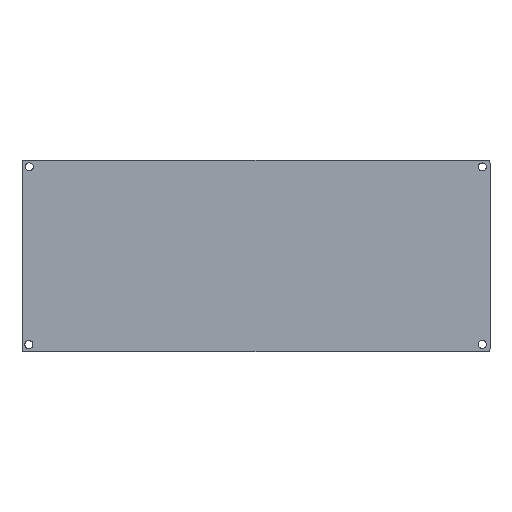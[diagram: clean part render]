
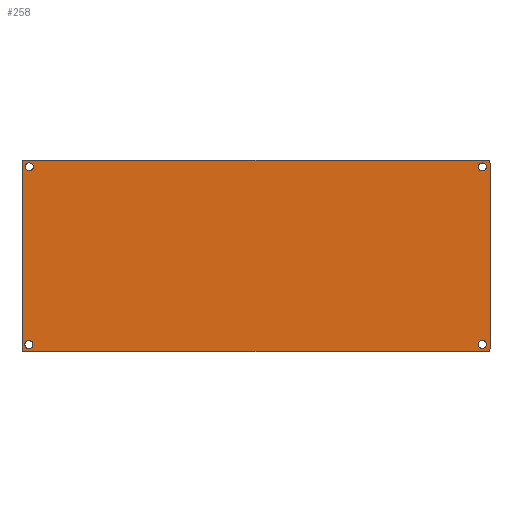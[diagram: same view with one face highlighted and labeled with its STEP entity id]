
A CAD part, top view. The second image highlights one B-rep face of the part: STEP entity #258.
In plain terms, the highlighted planar face has unit normal (0, 0, 1).
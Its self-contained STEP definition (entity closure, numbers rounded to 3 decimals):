
#23=FACE_BOUND('',#89,.T.);
#24=FACE_BOUND('',#90,.T.);
#25=FACE_BOUND('',#91,.T.);
#26=FACE_BOUND('',#92,.T.);
#31=CIRCLE('',#289,2.);
#32=CIRCLE('',#290,2.);
#33=CIRCLE('',#291,2.);
#34=CIRCLE('',#292,2.);
#36=LINE('',#414,#48);
#40=LINE('',#508,#52);
#41=LINE('',#526,#53);
#42=LINE('',#537,#54);
#48=VECTOR('',#304,10.);
#52=VECTOR('',#320,10.);
#53=VECTOR('',#323,10.);
#54=VECTOR('',#324,10.);
#62=PLANE('',#288);
#70=FACE_OUTER_BOUND('',#88,.T.);
#88=EDGE_LOOP('',(#205,#206,#207,#208,#209,#210,#211,#212));
#89=EDGE_LOOP('',(#213));
#90=EDGE_LOOP('',(#214));
#91=EDGE_LOOP('',(#215));
#92=EDGE_LOOP('',(#216));
#103=B_SPLINE_CURVE_WITH_KNOTS('',3,(#392,#393,#394,#395,#396,#397,#398,
#399,#400,#401),.UNSPECIFIED.,.F.,.F.,(4,3,3,4),(0.,0.064,
0.127,0.223),.UNSPECIFIED.);
#110=B_SPLINE_CURVE_WITH_KNOTS('',3,(#492,#493,#494,#495,#496,#497,#498,
#499,#500,#501),.UNSPECIFIED.,.F.,.F.,(4,3,3,4),(0.,0.064,
0.127,0.223),.UNSPECIFIED.);
#113=B_SPLINE_CURVE_WITH_KNOTS('',3,(#515,#516,#517,#518,#519,#520,#521,
#522,#523,#524),.UNSPECIFIED.,.F.,.F.,(4,3,3,4),(0.,0.064,0.127,
0.223),.UNSPECIFIED.);
#114=B_SPLINE_CURVE_WITH_KNOTS('',3,(#527,#528,#529,#530,#531,#532,#533,
#534,#535,#536),.UNSPECIFIED.,.F.,.F.,(4,3,3,4),(0.,0.064,
0.127,0.223),.UNSPECIFIED.);
#119=VERTEX_POINT('',#386);
#120=VERTEX_POINT('',#391);
#122=VERTEX_POINT('',#409);
#132=VERTEX_POINT('',#486);
#133=VERTEX_POINT('',#491);
#134=VERTEX_POINT('',#507);
#135=VERTEX_POINT('',#514);
#136=VERTEX_POINT('',#525);
#137=VERTEX_POINT('',#538);
#138=VERTEX_POINT('',#540);
#139=VERTEX_POINT('',#542);
#140=VERTEX_POINT('',#544);
#143=EDGE_CURVE('',#119,#120,#103,.T.);
#147=EDGE_CURVE('',#119,#122,#36,.T.);
#159=EDGE_CURVE('',#132,#133,#110,.T.);
#161=EDGE_CURVE('',#133,#134,#40,.T.);
#163=EDGE_CURVE('',#135,#122,#113,.T.);
#164=EDGE_CURVE('',#135,#136,#41,.T.);
#165=EDGE_CURVE('',#134,#136,#114,.T.);
#166=EDGE_CURVE('',#120,#132,#42,.T.);
#167=EDGE_CURVE('',#137,#137,#31,.T.);
#168=EDGE_CURVE('',#138,#138,#32,.T.);
#169=EDGE_CURVE('',#139,#139,#33,.T.);
#170=EDGE_CURVE('',#140,#140,#34,.T.);
#205=ORIENTED_EDGE('',*,*,#143,.F.);
#206=ORIENTED_EDGE('',*,*,#147,.T.);
#207=ORIENTED_EDGE('',*,*,#163,.F.);
#208=ORIENTED_EDGE('',*,*,#164,.T.);
#209=ORIENTED_EDGE('',*,*,#165,.F.);
#210=ORIENTED_EDGE('',*,*,#161,.F.);
#211=ORIENTED_EDGE('',*,*,#159,.F.);
#212=ORIENTED_EDGE('',*,*,#166,.F.);
#213=ORIENTED_EDGE('',*,*,#167,.T.);
#214=ORIENTED_EDGE('',*,*,#168,.T.);
#215=ORIENTED_EDGE('',*,*,#169,.T.);
#216=ORIENTED_EDGE('',*,*,#170,.T.);
#258=ADVANCED_FACE('',(#70,#23,#24,#25,#26),#62,.T.);
#288=AXIS2_PLACEMENT_3D('',#513,#321,#322);
#289=AXIS2_PLACEMENT_3D('',#539,#325,#326);
#290=AXIS2_PLACEMENT_3D('',#541,#327,#328);
#291=AXIS2_PLACEMENT_3D('',#543,#329,#330);
#292=AXIS2_PLACEMENT_3D('',#545,#331,#332);
#304=DIRECTION('',(1.,0.,0.));
#320=DIRECTION('',(1.,0.,0.));
#321=DIRECTION('center_axis',(0.,0.,1.));
#322=DIRECTION('ref_axis',(1.,0.,0.));
#323=DIRECTION('',(0.,1.,0.));
#324=DIRECTION('',(0.,1.,0.));
#325=DIRECTION('center_axis',(0.,0.,-1.));
#326=DIRECTION('ref_axis',(-1.,0.,0.));
#327=DIRECTION('center_axis',(0.,0.,-1.));
#328=DIRECTION('ref_axis',(-1.,0.,0.));
#329=DIRECTION('center_axis',(0.,0.,-1.));
#330=DIRECTION('ref_axis',(-1.,0.,0.));
#331=DIRECTION('center_axis',(0.,0.,-1.));
#332=DIRECTION('ref_axis',(-1.,0.,0.));
#386=CARTESIAN_POINT('',(7.938,0.,4.));
#391=CARTESIAN_POINT('',(6.523,1.414,4.));
#392=CARTESIAN_POINT('Ctrl Pts',(7.938,0.,4.));
#393=CARTESIAN_POINT('Ctrl Pts',(7.747,0.,4.));
#394=CARTESIAN_POINT('Ctrl Pts',(7.539,0.039,4.));
#395=CARTESIAN_POINT('Ctrl Pts',(7.343,0.13,4.));
#396=CARTESIAN_POINT('Ctrl Pts',(7.147,0.222,4.));
#397=CARTESIAN_POINT('Ctrl Pts',(6.963,0.365,4.));
#398=CARTESIAN_POINT('Ctrl Pts',(6.827,0.539,4.));
#399=CARTESIAN_POINT('Ctrl Pts',(6.622,0.799,4.));
#400=CARTESIAN_POINT('Ctrl Pts',(6.523,1.128,4.));
#401=CARTESIAN_POINT('Ctrl Pts',(6.523,1.414,4.));
#409=CARTESIAN_POINT('',(238.386,0.,4.));
#414=CARTESIAN_POINT('',(0.,0.,4.));
#486=CARTESIAN_POINT('',(6.523,94.086,4.));
#491=CARTESIAN_POINT('',(7.938,95.5,4.));
#492=CARTESIAN_POINT('Ctrl Pts',(6.523,94.086,4.));
#493=CARTESIAN_POINT('Ctrl Pts',(6.523,94.276,4.));
#494=CARTESIAN_POINT('Ctrl Pts',(6.562,94.484,4.));
#495=CARTESIAN_POINT('Ctrl Pts',(6.654,94.68,4.));
#496=CARTESIAN_POINT('Ctrl Pts',(6.745,94.875,4.));
#497=CARTESIAN_POINT('Ctrl Pts',(6.888,95.059,4.));
#498=CARTESIAN_POINT('Ctrl Pts',(7.062,95.196,4.));
#499=CARTESIAN_POINT('Ctrl Pts',(7.322,95.401,4.));
#500=CARTESIAN_POINT('Ctrl Pts',(7.652,95.5,4.));
#501=CARTESIAN_POINT('Ctrl Pts',(7.938,95.5,4.));
#507=CARTESIAN_POINT('',(238.386,95.5,4.));
#508=CARTESIAN_POINT('',(6.523,95.5,4.));
#513=CARTESIAN_POINT('Origin',(119.75,47.75,4.));
#514=CARTESIAN_POINT('',(239.8,1.414,4.));
#515=CARTESIAN_POINT('Ctrl Pts',(239.8,1.414,4.));
#516=CARTESIAN_POINT('Ctrl Pts',(239.8,1.224,4.));
#517=CARTESIAN_POINT('Ctrl Pts',(239.761,1.016,4.));
#518=CARTESIAN_POINT('Ctrl Pts',(239.67,0.821,4.));
#519=CARTESIAN_POINT('Ctrl Pts',(239.579,0.625,4.));
#520=CARTESIAN_POINT('Ctrl Pts',(239.435,0.441,4.));
#521=CARTESIAN_POINT('Ctrl Pts',(239.262,0.304,4.));
#522=CARTESIAN_POINT('Ctrl Pts',(239.001,0.099,4.));
#523=CARTESIAN_POINT('Ctrl Pts',(238.671,0.,
4.));
#524=CARTESIAN_POINT('Ctrl Pts',(238.386,0.,
4.));
#525=CARTESIAN_POINT('',(239.8,94.086,4.));
#526=CARTESIAN_POINT('',(239.8,0.,4.));
#527=CARTESIAN_POINT('Ctrl Pts',(238.386,95.5,4.));
#528=CARTESIAN_POINT('Ctrl Pts',(238.576,95.5,4.));
#529=CARTESIAN_POINT('Ctrl Pts',(238.784,95.461,4.));
#530=CARTESIAN_POINT('Ctrl Pts',(238.979,95.37,4.));
#531=CARTESIAN_POINT('Ctrl Pts',(239.175,95.279,4.));
#532=CARTESIAN_POINT('Ctrl Pts',(239.359,95.135,4.));
#533=CARTESIAN_POINT('Ctrl Pts',(239.496,94.962,4.));
#534=CARTESIAN_POINT('Ctrl Pts',(239.701,94.701,4.));
#535=CARTESIAN_POINT('Ctrl Pts',(239.8,94.372,4.));
#536=CARTESIAN_POINT('Ctrl Pts',(239.8,94.086,4.));
#537=CARTESIAN_POINT('',(6.523,0.,4.));
#538=CARTESIAN_POINT('',(11.976,3.598,4.));
#539=CARTESIAN_POINT('Origin',(9.976,3.598,4.));
#540=CARTESIAN_POINT('',(237.932,92.122,4.));
#541=CARTESIAN_POINT('Origin',(235.932,92.122,4.));
#542=CARTESIAN_POINT('',(12.143,92.186,4.));
#543=CARTESIAN_POINT('Origin',(10.143,92.186,4.));
#544=CARTESIAN_POINT('',(237.959,3.656,4.));
#545=CARTESIAN_POINT('Origin',(235.959,3.656,4.));
